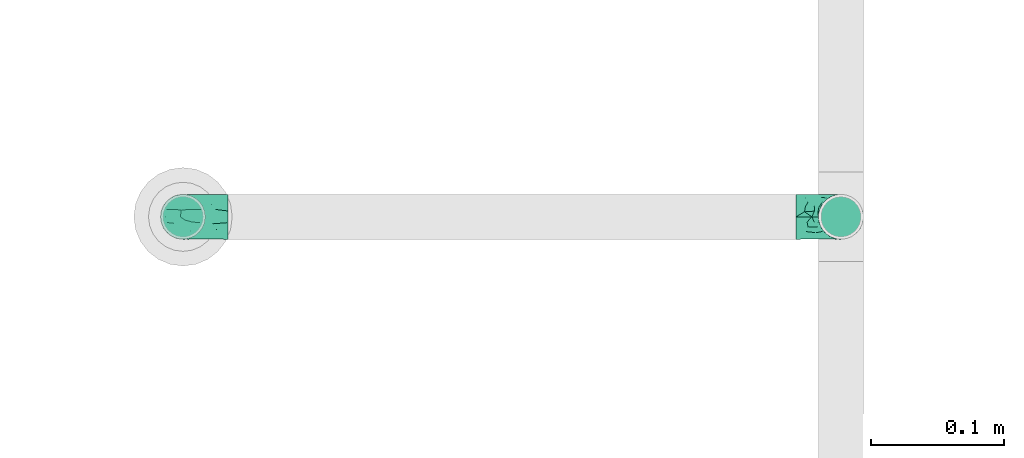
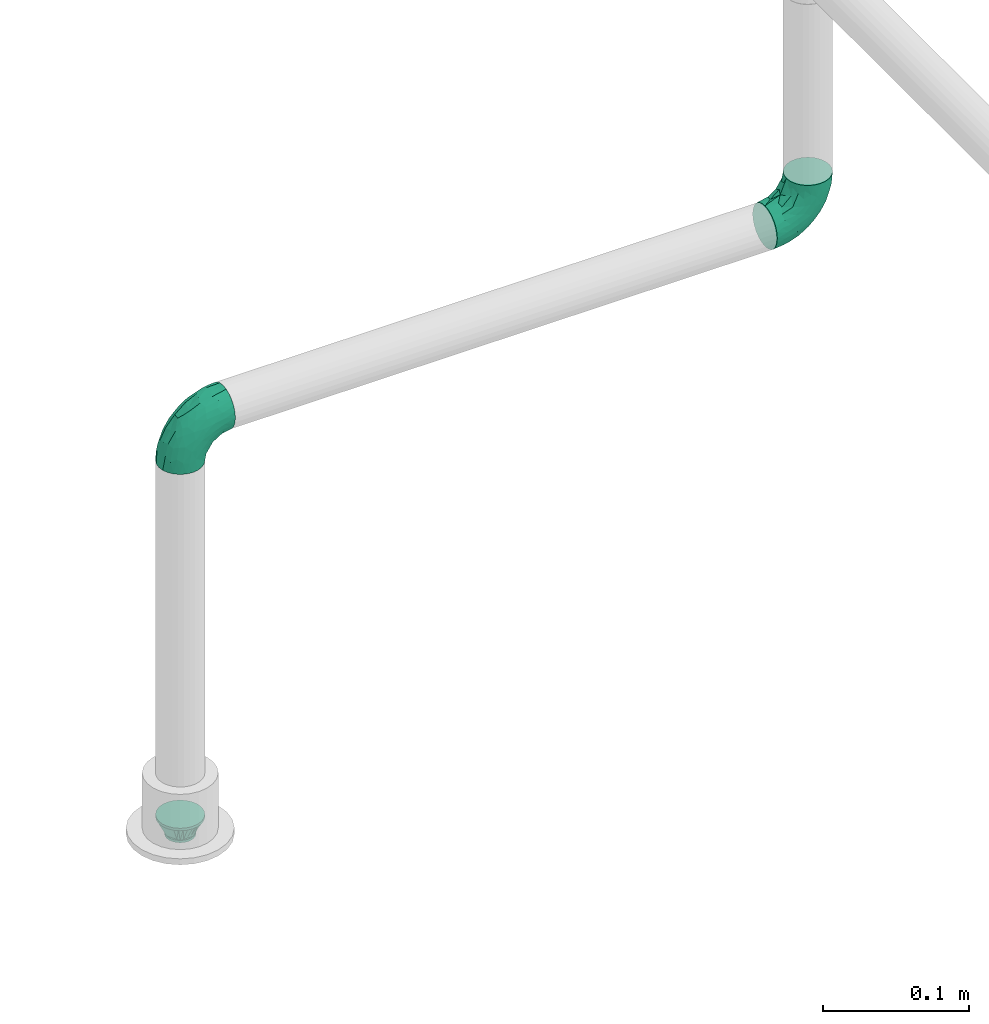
# One storey, part 76 of 95: 3 flow fittings.
"""IFC2X3 building model written with IfcOpenShell, lengths in millimetres."""

from ifc_helpers import new_model, entity, si_unit, converted_unit, derived_unit, direction, frame, origin_with_axes, place, context, subcontext, project, spatial, open_shell, surface_model, source, transform, mapped, type_object, element, save


model = new_model("IFC2X3")

# Units and contexts
model_context = context("Model", 3, precision=0.01, world=frame((0.0, 4.29681676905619e-09, 0.0)), true_north=direction((4.01073788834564e-13, 1.0)))
plan_context = context("Plan", 3, precision=0.01, world=frame((0.0, 4.29681676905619e-09, 0.0)), true_north=direction((4.01073788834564e-13, 1.0)))
body_context = subcontext(model_context, "Body", "Model", "MODEL_VIEW")
ifc_project = project(units=[converted_unit("PLANEANGLEUNIT", "DEGREE", entity("IfcPositiveLengthMeasure", 0.0174532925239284), si_unit("PLANEANGLEUNIT", "RADIAN"), dimensions=[0, 0, 0, 0, 0, 0, 0]), si_unit("AREAUNIT", "SQUARE_METRE"), si_unit("LENGTHUNIT", "METRE", prefix="MILLI"), si_unit("MASSUNIT", "GRAM", prefix="KILO"), si_unit("POWERUNIT", "WATT"), si_unit("PRESSUREUNIT", "PASCAL"), si_unit("FORCEUNIT", "NEWTON", prefix="KILO"), si_unit("ELECTRICVOLTAGEUNIT", "VOLT"), si_unit("ELECTRICCURRENTUNIT", "AMPERE"), si_unit("THERMODYNAMICTEMPERATUREUNIT", "DEGREE_CELSIUS"), si_unit("TIMEUNIT", "SECOND"), si_unit("VOLUMEUNIT", "CUBIC_METRE"), derived_unit("LINEARVELOCITYUNIT", [(si_unit("LENGTHUNIT", "METRE"), 1), (si_unit("TIMEUNIT", "SECOND"), -1)]), derived_unit("VOLUMETRICFLOWRATEUNIT", [(si_unit("VOLUMEUNIT", "CUBIC_METRE"), 1), (si_unit("TIMEUNIT", "SECOND"), -1)]), derived_unit("THERMALTRANSMITTANCEUNIT", [(si_unit("POWERUNIT", "WATT"), 1), (si_unit("THERMODYNAMICTEMPERATUREUNIT", "KELVIN"), -1), (si_unit("AREAUNIT", "SQUARE_METRE"), -1)]), derived_unit("SOUNDPRESSUREUNIT", [(si_unit("PRESSUREUNIT", "PASCAL"), 1)])], contexts=[model_context, plan_context])

# Site, building, storey
site_placement = place(None, frame((0.0, -4.29681676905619e-09, 0.0), z_axis=(0.0, 0.0, 1.0), x_axis=(1.0, 0.0, 0.0)))
site = spatial("IfcSite", under=ifc_project, at=site_placement, CompositionType="ELEMENT")
building_placement = place(site_placement, frame((0.0, 4.29681676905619e-09, 0.0), z_axis=(0.0, 0.0, 1.0), x_axis=(1.0, 0.0, 0.0)))
building = spatial("IfcBuilding", under=site, at=building_placement, Name="mc-building", CompositionType="ELEMENT")
storey_placement = place(building_placement, frame((0.0, 0.0, 210900.0), z_axis=(0.0, 0.0, 1.0), x_axis=(1.0, 0.0, 0.0)))
storey = spatial("IfcBuildingStorey", under=building, at=storey_placement, Name="Nivå F", CompositionType="ELEMENT", Elevation=210900.0)

# Flow fittings
pipe_fitting_type_1 = type_object("IfcPipeFittingType", Name="magi_pipe_fe_reducer_centric_short_NOR", PredefinedType="TRANSITION")
shared_shape_1 = source(origin_with_axes(), body_context, "Body", "SurfaceModel", [
    surface_model("IfcShellBasedSurfaceModel", [(14.4, 10.33541, 2.76936), (14.4, 7.56604, 7.56604), (14.4, 2.76936, 10.33541), (14.4, -2.76936, 10.33541), (14.4, -7.56604, 7.56604), (14.4, -10.33541, 2.76936), (0.0, -11.9501, -11.9501), (0.0, -16.9, 0.0), (0.0, 0.0, -16.9), (0.0, 11.9501, -11.9501), (0.0, 11.9501, 11.9501), (0.0, 16.9, 0.0), (12.4, -6.6875, -6.94985), (0.0, -13.18758, -8.96258), (0.0, 15.66253, -2.98753), (12.4, 10.7, 0.0), (12.4, 6.6875, -6.94985), (0.0, 8.96258, -13.18758), (12.4, 5.35, -9.26647), (0.0, 5.97505, -14.42505), (0.0, -8.96258, -13.18758), (12.4, -10.7, 0.0), (0.0, -15.66253, -2.98753), (0.0, -5.97505, -14.42505), (12.4, -5.35, -9.26647), (12.4, 9.3625, -2.31662), (12.4, 8.025, -4.63324), (0.0, 14.42505, -5.97505), (0.0, -14.42505, -5.97505), (12.4, -8.025, -4.63324), (12.4, -9.3625, -2.31662), (12.4, -2.675, -9.26647), (0.0, -2.98753, -15.66253), (0.0, 13.18758, -8.96258), (0.0, 2.98753, -15.66253), (12.4, 2.675, -9.26647), (12.4, 6.6875, 6.94985), (0.0, 13.18758, 8.96258), (0.0, -15.66253, 2.98753), (0.0, -11.9501, 11.9501), (12.4, -6.6875, 6.94985), (0.0, -8.96258, 13.18758), (12.4, -5.35, 9.26647), (0.0, -5.97505, 14.42505), (0.0, 8.96258, 13.18758), (0.0, 15.66253, 2.98753), (0.0, 5.97505, 14.42505), (12.4, 5.35, 9.26647), (12.4, -9.3625, 2.31662), (12.4, -8.025, 4.63324), (0.0, -14.42505, 5.97505), (0.0, 14.42505, 5.97505), (12.4, 8.025, 4.63324), (12.4, 9.3625, 2.31662), (12.4, 2.675, 9.26647), (0.0, 2.98753, 15.66253), (0.0, -13.18758, 8.96258), (0.0, -2.98753, 15.66253), (12.4, -2.675, 9.26647), (14.4, -2.76936, -10.33541), (14.4, 0.0, -10.7), (14.4, -5.35, -9.26647), (14.4, -7.56604, -7.56604), (14.4, -10.33541, -2.76936), (14.4, 10.33541, -2.76936), (14.4, -9.26647, -5.35), (14.4, 0.0, 10.7), (14.4, 2.76936, -10.33541), (14.4, 5.35, -9.26647), (14.4, 9.26647, -5.35), (14.4, 7.56604, -7.56604), (14.4, -10.7, 0.0), (14.4, -9.26647, 5.35), (14.4, -5.35, 9.26647), (14.4, 9.26647, 5.35), (14.4, 10.7, 0.0), (14.4, 5.35, 9.26647), (12.4, 0.0, 10.7), (12.4, 10.33541, -2.76936), (12.4, -2.76936, 10.33541), (12.4, -10.33541, 2.76936), (12.4, -9.26647, 5.35), (12.4, -7.56604, 7.56604), (12.4, 10.33541, 2.76936), (12.4, 7.56604, 7.56604), (12.4, 2.76936, 10.33541), (12.4, 9.26647, 5.35), (12.4, -10.33541, -2.76936), (12.4, -9.26647, -5.35), (12.4, -7.56604, -7.56604), (12.4, -2.76936, -10.33541), (12.4, 7.56604, -7.56604), (12.4, 9.26647, -5.35), (12.4, 2.76936, -10.33541), (12.4, 0.0, -10.7), (-2.0, -4.37404, 16.32415), (-2.0, 0.0, 16.9), (-2.0, -11.9501, 11.9501), (-2.0, -8.45, 14.63583), (-2.0, -16.32415, 4.37404), (-2.0, -14.63583, 8.45), (-2.0, 16.32415, 4.37404), (-2.0, 11.9501, 11.9501), (-2.0, 14.63583, 8.45), (-2.0, 8.45, 14.63583), (-2.0, 4.37404, 16.32415), (-2.0, 16.9, 0.0), (-2.0, 16.32415, -4.37404), (-2.0, 8.45, -14.63583), (-2.0, -11.9501, -11.9501), (-2.0, -16.32415, -4.37404), (-2.0, -14.63583, -8.45), (-2.0, -4.37404, -16.32415), (-2.0, -8.45, -14.63583), (-2.0, 0.0, -16.9), (-2.0, 14.63583, -8.45), (-2.0, 11.9501, -11.9501), (-2.0, 4.37404, -16.32415), (-2.0, -16.9, 0.0), (0.0, -8.45, -14.63583), (0.0, -4.37404, -16.32415), (0.0, 8.45, -14.63583), (0.0, -14.63583, -8.45), (0.0, -16.32415, -4.37404), (0.0, -4.37404, 16.32415), (0.0, 4.37404, -16.32415), (0.0, 14.63583, -8.45), (0.0, 16.32415, -4.37404), (0.0, -16.32415, 4.37404), (0.0, -14.63583, 8.45), (0.0, -8.45, 14.63583), (0.0, 0.0, 16.9), (0.0, 16.32415, 4.37404), (0.0, 14.63583, 8.45), (0.0, 8.45, 14.63583), (0.0, 4.37404, 16.32415), (12.4, 0.0, -9.26647), (12.4, 0.0, 9.26647)], [open_shell([[[0, 1, 2]], [[3, 4, 5]], [[6, 7, 8]], [[9, 10, 11]], [[6, 12, 13]], [[14, 11, 15]], [[9, 16, 17]], [[18, 19, 17]], [[20, 12, 6]], [[21, 7, 22]], [[20, 23, 24]], [[25, 26, 27]], [[28, 29, 30]], [[31, 23, 32]], [[29, 28, 13]], [[33, 16, 9]], [[33, 27, 26]], [[29, 13, 12]], [[34, 19, 35]], [[10, 36, 37]], [[38, 7, 21]], [[39, 40, 41]], [[42, 43, 41]], [[44, 36, 10]], [[15, 11, 45]], [[44, 46, 47]], [[48, 49, 50]], [[51, 52, 53]], [[54, 46, 55]], [[52, 51, 37]], [[56, 40, 39]], [[56, 50, 49]], [[52, 37, 36]], [[57, 43, 58]], [[59, 60, 61]], [[62, 61, 63]], [[63, 61, 64]], [[65, 62, 63]], [[63, 64, 66]], [[67, 68, 60]], [[68, 61, 60]], [[69, 64, 70]], [[68, 70, 64]], [[68, 64, 61]], [[5, 71, 63]], [[4, 72, 5]], [[3, 63, 66]], [[73, 4, 3]], [[64, 0, 66]], [[74, 1, 0]], [[0, 64, 75]], [[76, 2, 1]], [[0, 2, 66]], [[63, 3, 5]], [[77, 78, 79]], [[79, 78, 42]], [[80, 81, 82]], [[42, 78, 82]], [[78, 77, 83]], [[47, 84, 85]], [[83, 85, 84]], [[86, 83, 84]], [[83, 77, 85]], [[15, 78, 83]], [[82, 87, 80]], [[87, 82, 78]], [[88, 87, 24]], [[24, 87, 78]], [[89, 88, 24]], [[90, 24, 78]], [[91, 18, 92]], [[78, 92, 18]], [[93, 94, 18]], [[90, 78, 18]], [[18, 94, 90]], [[21, 80, 87]], [[15, 64, 78]], [[78, 69, 92]], [[18, 91, 68]], [[70, 91, 92]], [[93, 18, 67]], [[64, 69, 78]], [[15, 75, 64]], [[18, 68, 67]], [[68, 91, 70]], [[92, 69, 70]], [[93, 67, 60]], [[60, 94, 93]], [[94, 59, 90]], [[90, 61, 24]], [[88, 89, 65]], [[62, 89, 24]], [[87, 88, 63]], [[61, 62, 24]], [[90, 59, 61]], [[87, 63, 71]], [[63, 88, 65]], [[89, 62, 65]], [[87, 71, 21]], [[60, 59, 94]], [[21, 5, 80]], [[80, 72, 81]], [[42, 82, 73]], [[4, 82, 81]], [[79, 42, 3]], [[5, 72, 80]], [[21, 71, 5]], [[42, 73, 3]], [[73, 82, 4]], [[81, 72, 4]], [[79, 3, 66]], [[66, 77, 79]], [[77, 2, 85]], [[85, 76, 47]], [[86, 84, 74]], [[1, 84, 47]], [[83, 86, 0]], [[76, 1, 47]], [[85, 2, 76]], [[83, 0, 75]], [[0, 86, 74]], [[84, 1, 74]], [[83, 75, 15]], [[66, 2, 77]], [[95, 96, 97]], [[98, 95, 97]], [[99, 100, 97]], [[96, 99, 97]], [[101, 99, 96]], [[102, 103, 104]], [[96, 105, 104]], [[96, 104, 103]], [[103, 101, 96]], [[106, 107, 101]], [[108, 99, 101]], [[109, 110, 99]], [[111, 110, 109]], [[112, 113, 109]], [[109, 99, 108]], [[109, 114, 112]], [[115, 116, 107]], [[108, 107, 116]], [[117, 114, 108]], [[108, 101, 107]], [[108, 114, 109]], [[118, 99, 110]], [[6, 119, 120]], [[6, 120, 8]], [[121, 11, 6]], [[122, 6, 123]], [[6, 124, 123]], [[125, 121, 8]], [[121, 6, 8]], [[126, 127, 9]], [[121, 9, 127]], [[127, 11, 121]], [[128, 7, 123]], [[39, 129, 128]], [[124, 39, 128]], [[6, 11, 124]], [[130, 39, 124]], [[131, 124, 11]], [[132, 133, 131]], [[131, 11, 132]], [[10, 134, 133]], [[134, 131, 133]], [[135, 131, 134]], [[128, 123, 124]], [[106, 127, 107]], [[107, 126, 115]], [[108, 116, 121]], [[9, 116, 115]], [[117, 108, 125]], [[127, 126, 107]], [[106, 11, 127]], [[108, 121, 125]], [[121, 116, 9]], [[115, 126, 9]], [[117, 125, 8]], [[8, 114, 117]], [[114, 120, 112]], [[112, 119, 113]], [[111, 109, 122]], [[6, 109, 113]], [[110, 111, 123]], [[119, 6, 113]], [[112, 120, 119]], [[110, 123, 7]], [[123, 111, 122]], [[109, 6, 122]], [[110, 7, 118]], [[8, 120, 114]], [[118, 128, 99]], [[99, 129, 100]], [[98, 97, 130]], [[39, 97, 100]], [[95, 98, 124]], [[128, 129, 99]], [[118, 7, 128]], [[98, 130, 124]], [[130, 97, 39]], [[100, 129, 39]], [[95, 124, 131]], [[131, 96, 95]], [[96, 135, 105]], [[105, 134, 104]], [[103, 102, 133]], [[10, 102, 104]], [[101, 103, 132]], [[134, 10, 104]], [[105, 135, 134]], [[101, 132, 11]], [[132, 103, 133]], [[102, 10, 133]], [[101, 11, 106]], [[131, 135, 96]], [[15, 47, 42]], [[24, 15, 42]], [[21, 24, 42]], [[18, 15, 24]], [[10, 7, 39]], [[39, 131, 10]], [[10, 8, 7]], [[8, 10, 9]], [[22, 28, 30]], [[22, 30, 21]], [[31, 24, 23]], [[24, 12, 20]], [[27, 14, 25]], [[8, 34, 136]], [[18, 17, 16]], [[35, 136, 34]], [[32, 8, 136]], [[26, 16, 33]], [[25, 14, 15]], [[35, 19, 18]], [[31, 32, 136]], [[45, 51, 53]], [[45, 53, 15]], [[54, 47, 46]], [[47, 36, 44]], [[50, 38, 48]], [[131, 57, 137]], [[42, 41, 40]], [[58, 137, 57]], [[55, 131, 137]], [[49, 40, 56]], [[48, 38, 21]], [[58, 43, 42]], [[54, 55, 137]]])]),
])
flow_fitting_placement = place(storey_placement, frame((526893.09321, 461000.75899, 3769.25200000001), z_axis=(0.0, -1.0, 0.0), x_axis=(0.0, 0.0, -1.0)))
element("IfcFlowFitting", 1, at=flow_fitting_placement, inside=storey, type_object=pipe_fitting_type_1, Name="magi_pipe_fe_reducer_centric_short_NOR", context=body_context, shape_type="MappedRepresentation", body=[
    mapped(shared_shape_1, transform((0.0, 0.0, 0.0), scale=1.0)),
])
pipe_fitting_type_2 = type_object("IfcPipeFittingType", Name="magi_pipe_fe_elbow_short_001", PredefinedType="BEND")
shared_shape_2 = source(origin_with_axes(), body_context, "Body", "SurfaceModel", [
    surface_model("IfcShellBasedSurfaceModel", [(-33.8, 16.32415, -4.37404), (-33.8, 16.32415, 4.37404), (-33.8, 16.9, 0.0), (-33.8, -11.9501, -11.9501), (-33.8, 0.0, -16.9), (-33.8, -4.37404, -16.32415), (-33.8, -8.45, -14.63583), (-33.8, -14.63583, -8.45), (-33.8, -16.32415, -4.37404), (-33.8, 14.63583, -8.45), (-33.8, 8.45, 14.63583), (-33.8, 8.45, -14.63583), (-33.8, 11.9501, -11.9501), (-33.8, 4.37404, -16.32415), (-33.8, -11.9501, 11.9501), (-33.8, -16.32415, 4.37404), (-33.8, -14.63583, 8.45), (-33.8, -8.45, 14.63583), (-33.8, -4.37404, 16.32415), (-33.8, 11.9501, 11.9501), (-33.8, 14.63583, 8.45), (-33.8, 0.0, 16.9), (-33.8, 4.37404, 16.32415), (-33.8, -16.9, 0.0), (-4.37404, -33.8, -16.32415), (0.0, -33.8, -16.9), (-11.9501, -33.8, -11.9501), (-8.45, -33.8, -14.63583), (-16.32415, -33.8, -4.37404), (-14.63583, -33.8, -8.45), (14.63583, -33.8, -8.45), (16.32415, -33.8, -4.37404), (8.45, -33.8, 14.63583), (11.9501, -33.8, -11.9501), (8.45, -33.8, -14.63583), (4.37404, -33.8, -16.32415), (16.9, -33.8, 0.0), (16.32415, -33.8, 4.37404), (-11.9501, -33.8, 11.9501), (-14.63583, -33.8, 8.45), (-16.32415, -33.8, 4.37404), (-4.37404, -33.8, 16.32415), (-8.45, -33.8, 14.63583), (14.63583, -33.8, 8.45), (11.9501, -33.8, 11.9501), (4.37404, -33.8, 16.32415), (0.0, -33.8, 16.9), (-16.9, -33.8, 0.0), (-22.19287, 9.75018, 12.59315), (-24.79389, 13.12945, 9.48721), (-24.09897, 14.97035, 0.0), (-22.46095, 14.75051, 5.27077), (-14.93934, 10.76256, 8.5297), (13.04069, -14.39795, 0.0), (11.9251, -13.23888, 4.33236), (14.75051, -22.46094, 5.27077), (4.10169, -13.0571, 14.04018), (9.75018, -22.19287, 12.59315), (7.71387, -13.68847, 11.55891), (-24.84007, 6.39063, 15.2048), (-23.66549, -2.59054, 16.87119), (-25.81779, 2.23879, 16.61097), (-29.58514, -15.86957, 7.00283), (-24.21253, -17.66365, 7.72657), (-26.50418, -14.06512, 11.08152), (-14.39795, 13.04069, 0.0), (-13.23888, 11.9251, 4.33236), (-6.17382, 7.5455, 0.0), (-17.81434, -18.87373, 11.97104), (-2.31622, -25.28002, 16.85849), (-6.30846, -29.15138, 15.82987), (-29.23923, -10.23435, 13.77053), (-5.74484, 4.04709, 10.4122), (-0.28326, -0.34872, 10.09509), (-1.45439, 2.85688, 7.61475), (-1.72649, -9.1306, 15.53089), (-8.39727, -3.10034, 15.7812), (-4.41137, -11.31918, 16.59407), (-17.39909, -24.75344, 7.64977), (-28.14518, -17.29657, 4.25857), (-26.19233, -20.0512, 0.0), (-26.05147, -6.6281, 15.96447), (-10.06312, -7.38516, 16.81295), (-12.51807, -12.51807, 16.48937), (-5.87354, -16.61944, 16.86968), (-13.0571, 4.10169, 14.04018), (-3.01882, -3.01882, 13.81718), (-16.82553, 0.15166, 16.38038), (13.12945, -24.79389, 9.48721), (10.76256, -14.93934, 8.5297), (6.39063, -24.84007, 15.2048), (2.23879, -25.81779, 16.61097), (-13.68847, 7.71387, 11.55891), (14.97035, -24.09897, 0.0), (-7.30894, -22.89991, 16.09489), (-12.78295, -18.26924, 15.06066), (-10.67958, -26.17414, 14.008), (-18.04944, -15.16501, 14.04434), (-13.88562, -22.45231, 12.93244), (-21.84989, -21.84989, 0.0), (-23.11658, -20.08178, 4.02986), (-18.55817, -25.48277, 3.93065), (-13.95142, -26.94732, 11.03289), (-16.58335, -4.14122, 16.89279), (-18.57098, -7.23906, 16.59756), (-17.96666, -11.46709, 15.63151), (-9.84453, -17.54304, 16.18938), (0.15166, -16.82553, 16.38038), (-23.27207, -11.47201, 14.23154), (3.84842, -5.86994, 10.70473), (-8.0212, 7.54413, 7.93275), (5.13203, -3.01004, 5.90201), (1.00345, 2.19508, 4.57414), (8.70457, -7.04947, 3.99182), (5.24161, -1.7543, 2.53265), (-20.0512, -26.19233, 0.0), (8.4852, -8.76699, 7.09296), (-4.55488, 6.72064, 4.90681), (2.05031, 2.05031, 0.0), (7.5455, -6.17382, 0.0), (-26.75399, -2.1369, -16.845), (-14.61995, -24.73803, -11.27736), (-28.45274, 13.45335, -9.81895), (-26.00469, -6.63555, -15.96645), (-23.06726, -20.04573, -4.26202), (-6.7902, 0.2828, -13.8478), (-14.67501, 0.21081, -16.07388), (-13.80647, 4.26506, -14.17873), (-26.72048, -14.00837, -11.05776), (-24.53586, -11.08096, -14.13417), (6.66249, -28.54238, -15.38093), (5.83237, -21.40218, -15.03047), (10.0967, -24.44989, -12.75976), (-20.38182, -15.48705, -12.74596), (9.7522, -12.89279, -8.66343), (12.54494, -15.67504, -5.54878), (12.53268, -21.23441, -9.15363), (-15.61907, -15.61906, -14.83879), (-12.03528, -20.66498, -14.67665), (-15.65186, -19.64213, -13.01327), (-24.65452, 15.12934, -5.50955), (-25.56551, 15.26206, 0.0), (15.12934, -24.65452, -5.50955), (13.45335, -28.45274, -9.81895), (-15.67504, 12.54494, -5.54878), (-7.35442, 8.31014, -5.65563), (-24.44989, 10.0967, -12.75976), (-5.13869, 2.37198, -11.53565), (-5.70658, 5.33066, -8.89288), (0.16522, -0.41303, -9.71728), (-21.23441, 12.53268, -9.15363), (3.49291, -14.42772, -14.76381), (0.21081, -14.67501, -16.07388), (0.71146, -7.93863, -14.09382), (-24.89911, 2.13088, -16.591), (-28.54238, 6.66249, -15.38093), (-18.44386, 7.71663, -13.26957), (2.13088, -24.89911, -16.591), (-28.64342, -17.44413, -2.89318), (1.70017, 1.28722, -5.09504), (-17.69055, -27.4263, -3.76405), (-16.57067, -26.81947, -7.36596), (-12.89279, 9.7522, -8.66343), (-5.96611, -5.96611, -15.95814), (-20.53709, -20.09345, -8.28985), (-2.1369, -26.75399, -16.845), (-6.89872, -24.58781, -16.02578), (-10.60739, -26.53157, -13.98044), (-21.40218, 5.83237, -15.03047), (5.58056, -5.95325, -8.79455), (6.89393, -12.61842, -11.82233), (2.93192, -5.89627, -11.55917), (-3.99512, -18.61798, -16.89635), (8.31014, -7.35442, -5.65563), (-9.99983, -16.02119, -16.39699), (-9.1383, -9.86148, -16.89041), (-16.68576, -9.78031, -16.34199), (-27.01915, -16.61158, -7.12979), (15.26206, -25.56551, 0.0), (-18.61798, -3.99512, -16.89635), (-19.37495, -27.82495, 0.0), (-12.61842, 6.89393, -11.82233), (-18.84705, -19.14018, -10.96545)], [open_shell([[[0, 1, 2]], [[3, 4, 5]], [[3, 5, 6]], [[3, 7, 8]], [[4, 3, 9]], [[10, 0, 3]], [[11, 9, 12]], [[11, 13, 4]], [[4, 9, 11]], [[0, 9, 3]], [[14, 3, 8]], [[15, 16, 8]], [[16, 14, 8]], [[14, 17, 18]], [[14, 10, 3]], [[10, 14, 18]], [[1, 19, 20]], [[1, 0, 19]], [[10, 21, 22]], [[0, 10, 19]], [[18, 21, 10]], [[15, 8, 23]], [[24, 25, 26]], [[27, 24, 26]], [[28, 29, 26]], [[30, 26, 25]], [[26, 31, 32]], [[33, 30, 34]], [[25, 35, 34]], [[34, 30, 25]], [[26, 30, 31]], [[36, 37, 31]], [[28, 26, 38]], [[28, 39, 40]], [[28, 38, 39]], [[41, 42, 38]], [[38, 26, 32]], [[41, 38, 32]], [[43, 44, 37]], [[44, 31, 37]], [[45, 46, 32]], [[44, 32, 31]], [[32, 46, 41]], [[28, 40, 47]], [[48, 49, 19]], [[50, 2, 1]], [[51, 49, 52]], [[53, 54, 55]], [[20, 19, 49]], [[20, 51, 1]], [[56, 57, 58]], [[19, 10, 48]], [[10, 59, 48]], [[60, 61, 21]], [[62, 63, 64]], [[65, 66, 67]], [[32, 44, 57]], [[63, 68, 64]], [[69, 70, 41]], [[14, 71, 17]], [[21, 61, 22]], [[72, 73, 74]], [[75, 76, 77]], [[16, 64, 14]], [[78, 40, 39]], [[79, 23, 80]], [[16, 15, 62]], [[18, 60, 21]], [[17, 81, 18]], [[82, 83, 84]], [[85, 86, 72]], [[87, 85, 59]], [[57, 88, 89]], [[45, 32, 90]], [[37, 55, 43]], [[91, 46, 45]], [[89, 55, 54]], [[55, 88, 43]], [[48, 85, 92]], [[44, 43, 88]], [[22, 59, 10]], [[93, 53, 55]], [[55, 37, 93]], [[65, 51, 66]], [[69, 84, 94]], [[94, 95, 96]], [[95, 97, 98]], [[99, 100, 80]], [[96, 38, 42]], [[100, 99, 101]], [[63, 78, 68]], [[70, 42, 41]], [[79, 15, 23]], [[70, 94, 96]], [[100, 101, 78]], [[96, 102, 38]], [[41, 46, 69]], [[102, 96, 98]], [[51, 50, 1]], [[32, 57, 90]], [[56, 90, 57]], [[60, 18, 81]], [[82, 103, 104]], [[104, 81, 105]], [[102, 39, 38]], [[83, 95, 106]], [[84, 106, 94]], [[107, 69, 91]], [[14, 64, 71]], [[97, 108, 64]], [[48, 59, 85]], [[50, 51, 65]], [[87, 59, 61]], [[52, 48, 92]], [[76, 86, 85]], [[45, 90, 91]], [[93, 37, 36]], [[56, 75, 107]], [[90, 56, 107]], [[109, 86, 56]], [[92, 72, 110]], [[110, 72, 74]], [[51, 52, 66]], [[111, 112, 74]], [[111, 113, 114]], [[57, 89, 58]], [[20, 49, 51]], [[52, 49, 48]], [[44, 88, 57]], [[89, 88, 55]], [[60, 81, 104]], [[108, 81, 71]], [[79, 62, 15]], [[100, 78, 63]], [[101, 115, 47]], [[99, 115, 101]], [[102, 78, 39]], [[78, 102, 68]], [[96, 95, 98]], [[108, 97, 105]], [[83, 82, 104]], [[84, 69, 107]], [[87, 82, 76]], [[77, 82, 84]], [[46, 91, 69]], [[107, 91, 90]], [[22, 61, 59]], [[87, 61, 60]], [[72, 86, 73]], [[116, 111, 109]], [[103, 60, 104]], [[83, 104, 105]], [[83, 105, 95]], [[108, 105, 81]], [[105, 97, 95]], [[68, 97, 64]], [[103, 87, 60]], [[103, 82, 87]], [[87, 76, 85]], [[86, 76, 75]], [[86, 75, 56]], [[107, 75, 77]], [[107, 77, 84]], [[82, 77, 76]], [[17, 71, 81]], [[108, 71, 64]], [[42, 70, 96]], [[94, 70, 69]], [[16, 62, 64]], [[100, 63, 79]], [[62, 79, 63]], [[80, 100, 79]], [[117, 67, 66]], [[117, 66, 110]], [[116, 113, 111]], [[67, 117, 118]], [[52, 92, 110]], [[114, 112, 111]], [[54, 53, 119]], [[92, 85, 72]], [[58, 109, 56]], [[109, 58, 116]], [[52, 110, 66]], [[117, 110, 74]], [[117, 74, 112]], [[109, 111, 73]], [[112, 118, 117]], [[118, 112, 114]], [[114, 119, 118]], [[54, 119, 113]], [[114, 113, 119]], [[89, 54, 116]], [[113, 116, 54]], [[58, 89, 116]], [[74, 73, 111]], [[109, 73, 86]], [[101, 40, 78]], [[40, 101, 47]], [[98, 68, 102]], [[97, 68, 98]], [[83, 106, 84]], [[106, 95, 94]], [[4, 120, 5]], [[121, 26, 29]], [[9, 122, 12]], [[5, 123, 6]], [[80, 124, 99]], [[125, 126, 127]], [[128, 3, 129]], [[130, 131, 132]], [[133, 128, 129]], [[134, 135, 136]], [[137, 138, 139]], [[3, 6, 129]], [[140, 141, 65]], [[142, 143, 136]], [[9, 0, 140]], [[144, 67, 145]], [[11, 12, 146]], [[147, 148, 149]], [[150, 140, 144]], [[151, 152, 153]], [[4, 13, 154]], [[146, 155, 11]], [[156, 146, 150]], [[13, 11, 155]], [[136, 135, 142]], [[25, 157, 35]], [[158, 80, 23]], [[145, 159, 148]], [[28, 160, 161]], [[145, 162, 144]], [[153, 152, 163]], [[161, 29, 28]], [[161, 164, 121]], [[132, 33, 34]], [[24, 165, 25]], [[166, 165, 24]], [[30, 33, 143]], [[167, 27, 26]], [[164, 160, 124]], [[130, 35, 157]], [[168, 154, 155]], [[129, 6, 123]], [[169, 170, 171]], [[152, 157, 172]], [[27, 166, 24]], [[34, 35, 130]], [[33, 132, 143]], [[126, 154, 168]], [[173, 135, 134]], [[137, 139, 133]], [[128, 7, 3]], [[132, 131, 170]], [[142, 31, 30]], [[174, 175, 172]], [[129, 123, 176]], [[8, 177, 158]], [[119, 53, 135]], [[166, 27, 167]], [[172, 166, 174]], [[138, 167, 139]], [[9, 140, 122]], [[0, 2, 141]], [[178, 36, 31]], [[136, 132, 170]], [[131, 157, 152]], [[172, 157, 165]], [[153, 170, 151]], [[175, 163, 152]], [[156, 127, 168]], [[150, 146, 122]], [[4, 154, 120]], [[126, 175, 179]], [[154, 126, 179]], [[125, 163, 126]], [[150, 144, 162]], [[140, 0, 141]], [[142, 178, 31]], [[178, 142, 53]], [[7, 128, 177]], [[137, 133, 129]], [[137, 129, 176]], [[179, 123, 120]], [[29, 161, 121]], [[180, 99, 160]], [[138, 174, 166]], [[167, 26, 121]], [[28, 47, 160]], [[158, 124, 80]], [[177, 164, 124]], [[99, 124, 160]], [[170, 169, 134]], [[153, 163, 125]], [[159, 169, 149]], [[162, 145, 148]], [[171, 153, 125]], [[127, 181, 125]], [[164, 177, 128]], [[177, 8, 7]], [[145, 67, 159]], [[144, 140, 65]], [[135, 53, 142]], [[173, 119, 135]], [[5, 120, 123]], [[179, 120, 154]], [[25, 165, 157]], [[172, 165, 166]], [[175, 152, 172]], [[174, 137, 176]], [[163, 175, 126]], [[179, 175, 176]], [[174, 176, 175]], [[179, 176, 123]], [[162, 181, 150]], [[181, 147, 125]], [[162, 148, 181]], [[149, 148, 159]], [[173, 134, 169]], [[134, 136, 170]], [[173, 169, 159]], [[171, 149, 169]], [[147, 149, 171]], [[171, 170, 153]], [[128, 182, 164]], [[139, 121, 182]], [[148, 147, 181]], [[125, 147, 171]], [[133, 139, 182]], [[121, 139, 167]], [[167, 138, 166]], [[138, 137, 174]], [[133, 182, 128]], [[164, 182, 121]], [[164, 161, 160]], [[180, 160, 47]], [[124, 158, 177]], [[8, 158, 23]], [[34, 130, 132]], [[131, 130, 157]], [[30, 143, 142]], [[136, 143, 132]], [[13, 155, 154]], [[168, 155, 146]], [[12, 122, 146]], [[150, 122, 140]], [[151, 131, 152]], [[118, 119, 159]], [[67, 144, 65]], [[131, 151, 170]], [[173, 159, 119]], [[67, 118, 159]], [[181, 127, 156]], [[168, 127, 126]], [[181, 156, 150]], [[146, 156, 168]]])]),
])
for number, where, z_axis, x_axis, name in (
    (2, (526893.09321, 461000.75899, 4100.0), (0.0, -1.0, 0.0), (0.0, 0.0, 1.0), "magi_pipe_fe_elbow_short_001"),
    (3, (527387.9, 461000.75899, 4100.0), (0.0, -1.0, 0.0), (0.0, 0.0, -1.0), "magi_pipe_fe_elbow_short_001"),
):
    element("IfcFlowFitting", number, at=place(storey_placement, frame(where, z_axis=z_axis, x_axis=x_axis)), inside=storey, type_object=pipe_fitting_type_2, Name=name, context=body_context, shape_type="MappedRepresentation", body=[
        mapped(shared_shape_2, transform((0.0, 0.0, 0.0), scale=1.0)),
    ])

save(model, "model.ifc")
